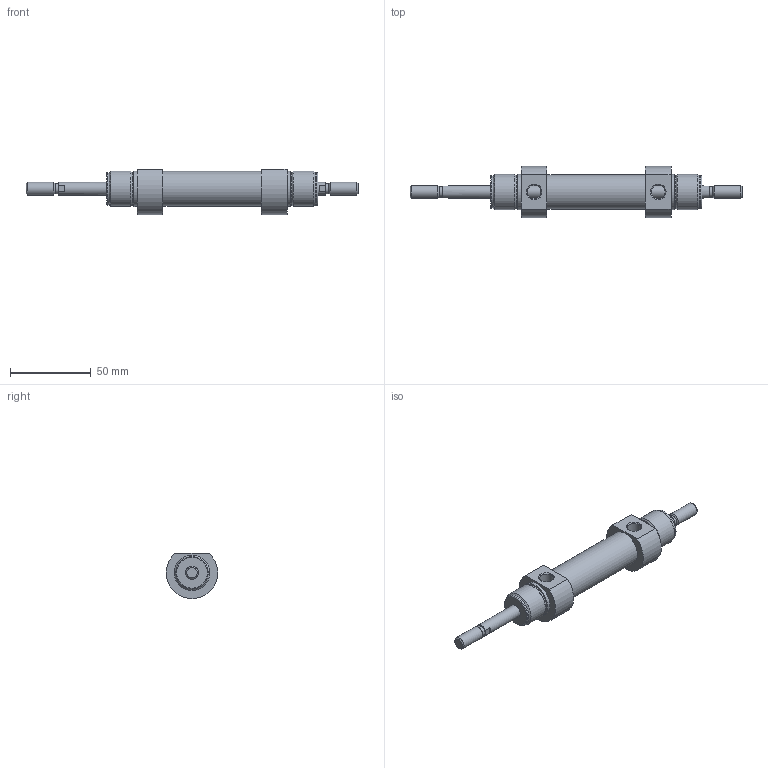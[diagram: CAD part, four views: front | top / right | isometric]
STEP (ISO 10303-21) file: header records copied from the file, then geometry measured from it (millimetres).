
FILE_DESCRIPTION( ( 'STEP AP203' ), '1' );
FILE_NAME( '//expscmdclustefs.cadenas.external/client_exchange/iodir/jobs/output/wkb68460466_no0/STEP/M101-020-0025-M__0__2_03.stp', ' ', ( ' ' ), ( ' ' ), 'PSStep 15.0.47', 'PARTsolutions', ' ' );
FILE_SCHEMA( ( 'CONFIG_CONTROL_DESIGN' ) );
Length unit declared in the file: millimetre
Products named in the file (3): M101-020-0025-M [0]; HI_M101-020-0025-M-[0]-z; HI_M101-020-0025-M-[0]-k
Assembly tree (2 placements, depth 2):
  M101-020-0025-M [0]
    HI_M101-020-0025-M-[0]-z
    HI_M101-020-0025-M-[0]-k
Bounding box: 206 x 32 x 28 mm (x, y, z)
Volume: 56280 mm3; surface area: 23518.4 mm2
Topology: 2 solids, 2 shells, 65 faces, 129 edges, 80 vertices
Faces by surface type: plane 26, cylinder 23, cone 14, torus 2
Full cylindrical faces by diameter (mm): 6.466 x2, 8 x6, 8.566 x2, 20 x2, 20.16 x4, 21.6 x1, 22 x4
Entity records: 1702 total; most frequent: CARTESIAN_POINT 356, DIRECTION 280, ORIENTED_EDGE 184, AXIS2_PLACEMENT_3D 128, EDGE_LOOP 116, EDGE_CURVE 92, FACE_OUTER_BOUND 88, VERTEX_POINT 76
